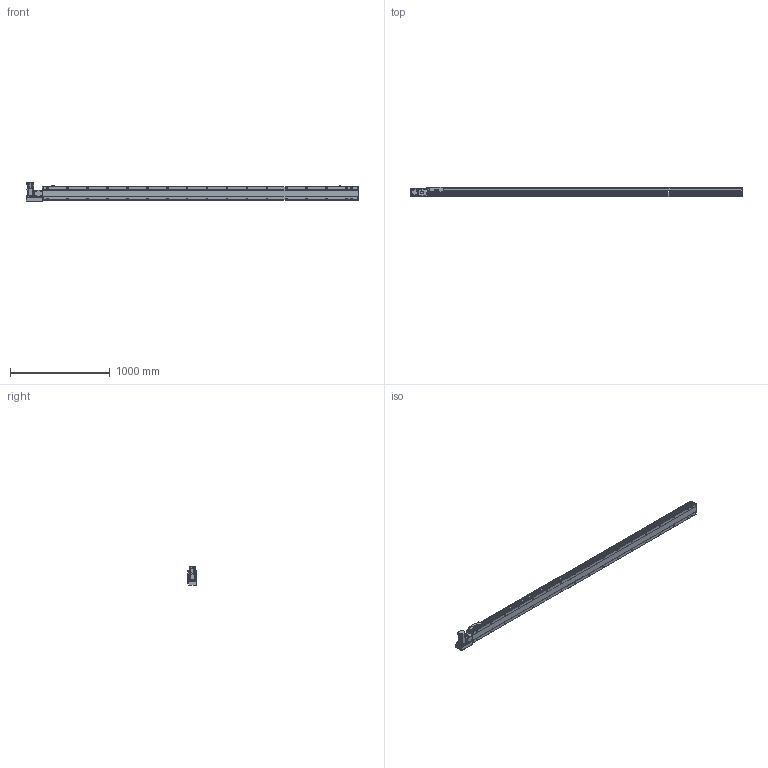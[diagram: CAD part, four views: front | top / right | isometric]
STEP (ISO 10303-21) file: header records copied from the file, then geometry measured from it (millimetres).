
FILE_DESCRIPTION( ( 'STEP AP214' ), '1' );
FILE_NAME( 'x:/temp/worker_6/temp/exporttempdir_5396_36_GGbZg/format_0/PBS140S-P40-S2900-L-T40-C1-N(0).stp', '2022-06-09T00:05:44', ( 'License CC BY-ND 4.0' ), ( 'CADENAS' ), ' ', 'PARTsolutions', ' ' );
FILE_SCHEMA( ( 'AUTOMOTIVE_DESIGN { 1 0 10303 214 1 1 1 1 }' ) );
Length unit declared in the file: millimetre
Products named in the file (7): PBS140S-P40-S2900-L-T40-C1-N(0); _PBS140S-S2900()_body; _PBS140ST-L_motors; _T40-p1; _PBS140S_sliser; _PBS140S_plant; _PBS140S_sensor
Assembly tree (8 placements, depth 2):
  PBS140S-P40-S2900-L-T40-C1-N(0)
    _PBS140S-S2900()_body
    _PBS140ST-L_motors
    _T40-p1
    _PBS140S_sliser
    _PBS140S_plant
    _PBS140S_sensor  x3
Bounding box: 3333 x 93 x 189.7 mm (x, y, z)
Volume: 15689834.1 mm3; surface area: 2635598.9 mm2
Topology: 8 solids, 8 shells, 1243 faces, 3271 edges, 2139 vertices
Faces by surface type: plane 756, cylinder 417, cone 60, sphere 8, torus 2
Full cylindrical faces by diameter (mm): 3.242 x4, 4 x2, 4.134 x4, 4.4 x8, 4.5 x2, 4.8 x4, 4.917 x42, 5.5 x7, 6 x2, 7 x36, 7.5 x8, 8 x12, 8.5 x4, 10.5 x34, 14 x1, 30 x2, 50 x2
Entity records: 46114 total; most frequent: CARTESIAN_POINT 7918, DIRECTION 5978, ORIENTED_EDGE 5602, EDGE_CURVE 2801, AXIS2_PLACEMENT_3D 2129, VERTEX_POINT 1969, LINE 1720, VECTOR 1720
